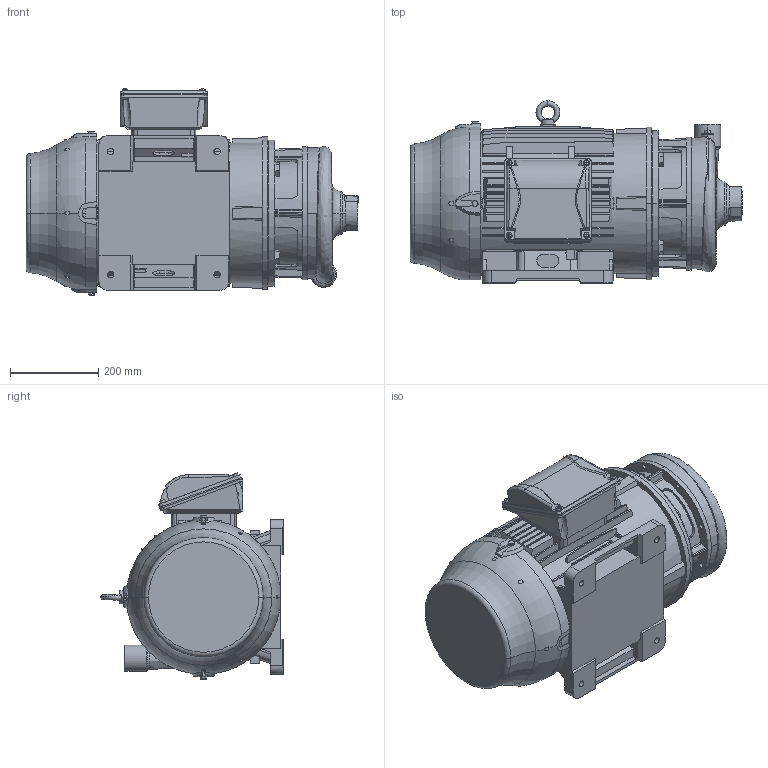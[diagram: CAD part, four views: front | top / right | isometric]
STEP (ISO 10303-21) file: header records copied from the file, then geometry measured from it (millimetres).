
FILE_DESCRIPTION (( 'STEP AP214' ), '1' );
FILE_NAME ('BOMBA 97-38 TJM 1.1-4'''' 30,0CV T 4V INC IR3.STEP', '2026-06-08T13:41:43', ( '' ), ( '' ), 'SwSTEP 2.0', 'SolidWorks 2025', '' );
FILE_SCHEMA (( 'AUTOMOTIVE_DESIGN' ));
Length unit declared in the file: millimetre
Products named in the file (7): BOMBA 97-38 TJM 1.1-4'''' 30,0CV T 4V INC IR3; PARAFUSO SEXTAVADO UNC 5-8'''' X 1'''' ZB SALT SPREY 96h - 60700167; PLUG DE ESCORVA LATÃO 3-8'''' - 60550166; INTERMEDIARIA 89-62 FC279 - 60460002; ROTOR 97-38 30 à 20cv; MOTOR TRI 30CV IP55 2P 180M_Predeterminada; CARCAÇA 97-38 - Suc. 2'''' x Elev. 1.1-4''''
Assembly tree (9 placements, depth 2):
  BOMBA 97-38 TJM 1.1-4'''' 30,0CV T 4V INC IR3
    MOTOR TRI 30CV IP55 2P 180M_Predeterminada
    INTERMEDIARIA 89-62 FC279 - 60460002
    PARAFUSO SEXTAVADO UNC 5-8'''' X 1'''' ZB SALT SPREY 96h - 60700167  x4
    PLUG DE ESCORVA LATÃO 3-8'''' - 60550166
    ROTOR 97-38 30 à 20cv
    CARCAÇA 97-38 - Suc. 2'''' x Elev. 1.1-4''''
Bounding box: 751.6 x 412.49 x 466.9 mm (x, y, z)
Volume: 70149774.5 mm3; surface area: 2318199.8 mm2
Topology: 27 solids, 30 shells, 1642 faces, 4226 edges, 2737 vertices
Faces by surface type: plane 792, bspline 306, cylinder 291, cone 208, torus 41, sphere 4
Entity records: 106042 total; most frequent: CARTESIAN_POINT 69872, ORIENTED_EDGE 8202, DIRECTION 6258, EDGE_CURVE 4101, VERTEX_POINT 2665, AXIS2_PLACEMENT_3D 2184, LINE 1890, VECTOR 1890
